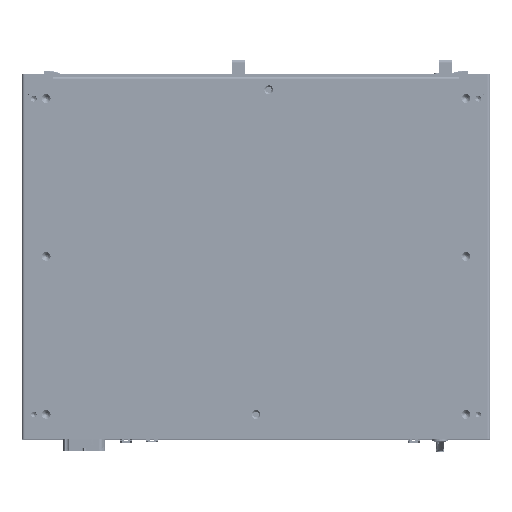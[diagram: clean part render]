
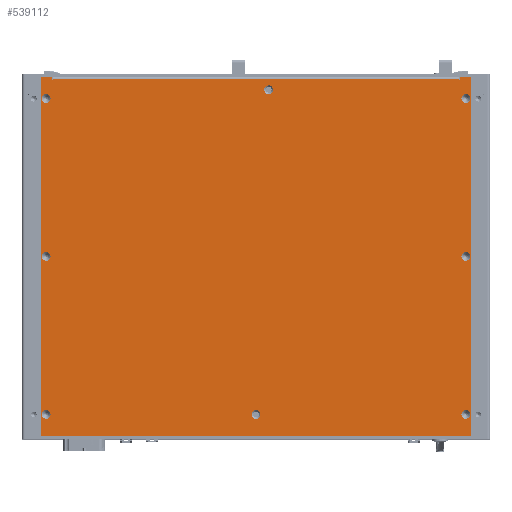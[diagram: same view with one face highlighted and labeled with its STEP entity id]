
A CAD part, top view. The second image highlights one B-rep face of the part: STEP entity #539112.
In plain terms, the highlighted planar face has unit normal (0, 0, 1).
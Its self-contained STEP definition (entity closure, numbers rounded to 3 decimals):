
#6070=FACE_BOUND('',#71957,.T.);
#6071=FACE_BOUND('',#71958,.T.);
#6072=FACE_BOUND('',#71959,.T.);
#6073=FACE_BOUND('',#71960,.T.);
#6074=FACE_BOUND('',#71961,.T.);
#6075=FACE_BOUND('',#71962,.T.);
#6076=FACE_BOUND('',#71963,.T.);
#6077=FACE_BOUND('',#71964,.T.);
#18801=PLANE('',#576316);
#42388=FACE_OUTER_BOUND('',#71956,.T.);
#71956=EDGE_LOOP('',(#431926,#431927,#431928,#431929,#431930,#431931,#431932,
#431933,#431934,#431935,#431936,#431937));
#71957=EDGE_LOOP('',(#431938));
#71958=EDGE_LOOP('',(#431939));
#71959=EDGE_LOOP('',(#431940));
#71960=EDGE_LOOP('',(#431941));
#71961=EDGE_LOOP('',(#431942));
#71962=EDGE_LOOP('',(#431943));
#71963=EDGE_LOOP('',(#431944));
#71964=EDGE_LOOP('',(#431945));
#92676=CIRCLE('',#576298,3.);
#92678=CIRCLE('',#576301,3.);
#92679=CIRCLE('',#576303,3.);
#92680=CIRCLE('',#576305,3.);
#92681=CIRCLE('',#576307,3.);
#92683=CIRCLE('',#576310,3.);
#92684=CIRCLE('',#576312,3.);
#92685=CIRCLE('',#576314,3.);
#92686=CIRCLE('',#576317,0.25);
#92687=CIRCLE('',#576318,0.25);
#137381=LINE('',#873149,#193372);
#137382=LINE('',#873151,#193373);
#137383=LINE('',#873155,#193374);
#137384=LINE('',#873157,#193375);
#137385=LINE('',#873159,#193376);
#137386=LINE('',#873161,#193377);
#137387=LINE('',#873163,#193378);
#137388=LINE('',#873165,#193379);
#137389=LINE('',#873167,#193380);
#137390=LINE('',#873170,#193381);
#193372=VECTOR('',#680979,1000.);
#193373=VECTOR('',#680980,1000.);
#193374=VECTOR('',#680983,1000.);
#193375=VECTOR('',#680984,1000.);
#193376=VECTOR('',#680985,1000.);
#193377=VECTOR('',#680986,1000.);
#193378=VECTOR('',#680987,1000.);
#193379=VECTOR('',#680988,1000.);
#193380=VECTOR('',#680989,1000.);
#193381=VECTOR('',#680992,1000.);
#244746=VERTEX_POINT('',#873102);
#244748=VERTEX_POINT('',#873108);
#244749=VERTEX_POINT('',#873112);
#244750=VERTEX_POINT('',#873116);
#244751=VERTEX_POINT('',#873120);
#244753=VERTEX_POINT('',#873126);
#244754=VERTEX_POINT('',#873130);
#244755=VERTEX_POINT('',#873134);
#244760=VERTEX_POINT('',#873147);
#244761=VERTEX_POINT('',#873148);
#244762=VERTEX_POINT('',#873150);
#244763=VERTEX_POINT('',#873152);
#244764=VERTEX_POINT('',#873154);
#244765=VERTEX_POINT('',#873156);
#244766=VERTEX_POINT('',#873158);
#244767=VERTEX_POINT('',#873160);
#244768=VERTEX_POINT('',#873162);
#244769=VERTEX_POINT('',#873164);
#244770=VERTEX_POINT('',#873166);
#244771=VERTEX_POINT('',#873168);
#310144=EDGE_CURVE('',#244746,#244746,#92676,.T.);
#310147=EDGE_CURVE('',#244748,#244748,#92678,.T.);
#310149=EDGE_CURVE('',#244749,#244749,#92679,.T.);
#310151=EDGE_CURVE('',#244750,#244750,#92680,.T.);
#310153=EDGE_CURVE('',#244751,#244751,#92681,.T.);
#310156=EDGE_CURVE('',#244753,#244753,#92683,.T.);
#310158=EDGE_CURVE('',#244754,#244754,#92684,.T.);
#310160=EDGE_CURVE('',#244755,#244755,#92685,.T.);
#310165=EDGE_CURVE('',#244760,#244761,#137381,.T.);
#310166=EDGE_CURVE('',#244761,#244762,#137382,.T.);
#310167=EDGE_CURVE('',#244762,#244763,#92686,.T.);
#310168=EDGE_CURVE('',#244763,#244764,#137383,.T.);
#310169=EDGE_CURVE('',#244765,#244764,#137384,.T.);
#310170=EDGE_CURVE('',#244766,#244765,#137385,.T.);
#310171=EDGE_CURVE('',#244767,#244766,#137386,.T.);
#310172=EDGE_CURVE('',#244768,#244767,#137387,.T.);
#310173=EDGE_CURVE('',#244769,#244768,#137388,.T.);
#310174=EDGE_CURVE('',#244770,#244769,#137389,.T.);
#310175=EDGE_CURVE('',#244771,#244770,#92687,.T.);
#310176=EDGE_CURVE('',#244760,#244771,#137390,.T.);
#431926=ORIENTED_EDGE('',*,*,#310165,.T.);
#431927=ORIENTED_EDGE('',*,*,#310166,.T.);
#431928=ORIENTED_EDGE('',*,*,#310167,.T.);
#431929=ORIENTED_EDGE('',*,*,#310168,.T.);
#431930=ORIENTED_EDGE('',*,*,#310169,.F.);
#431931=ORIENTED_EDGE('',*,*,#310170,.F.);
#431932=ORIENTED_EDGE('',*,*,#310171,.F.);
#431933=ORIENTED_EDGE('',*,*,#310172,.F.);
#431934=ORIENTED_EDGE('',*,*,#310173,.F.);
#431935=ORIENTED_EDGE('',*,*,#310174,.F.);
#431936=ORIENTED_EDGE('',*,*,#310175,.F.);
#431937=ORIENTED_EDGE('',*,*,#310176,.F.);
#431938=ORIENTED_EDGE('',*,*,#310144,.F.);
#431939=ORIENTED_EDGE('',*,*,#310147,.F.);
#431940=ORIENTED_EDGE('',*,*,#310149,.F.);
#431941=ORIENTED_EDGE('',*,*,#310151,.F.);
#431942=ORIENTED_EDGE('',*,*,#310156,.F.);
#431943=ORIENTED_EDGE('',*,*,#310158,.F.);
#431944=ORIENTED_EDGE('',*,*,#310160,.F.);
#431945=ORIENTED_EDGE('',*,*,#310153,.F.);
#539112=ADVANCED_FACE('',(#42388,#6070,#6071,#6072,#6073,#6074,#6075,#6076,
#6077),#18801,.F.);
#576298=AXIS2_PLACEMENT_3D('',#873104,#680930,#680931);
#576301=AXIS2_PLACEMENT_3D('',#873110,#680937,#680938);
#576303=AXIS2_PLACEMENT_3D('',#873114,#680942,#680943);
#576305=AXIS2_PLACEMENT_3D('',#873118,#680947,#680948);
#576307=AXIS2_PLACEMENT_3D('',#873122,#680952,#680953);
#576310=AXIS2_PLACEMENT_3D('',#873128,#680959,#680960);
#576312=AXIS2_PLACEMENT_3D('',#873132,#680964,#680965);
#576314=AXIS2_PLACEMENT_3D('',#873136,#680969,#680970);
#576316=AXIS2_PLACEMENT_3D('',#873146,#680977,#680978);
#576317=AXIS2_PLACEMENT_3D('',#873153,#680981,#680982);
#576318=AXIS2_PLACEMENT_3D('',#873169,#680990,#680991);
#680930=DIRECTION('center_axis',(0.,0.,
1.));
#680931=DIRECTION('ref_axis',(-1.,0.,0.));
#680937=DIRECTION('center_axis',(0.,0.,
1.));
#680938=DIRECTION('ref_axis',(-1.,0.,0.));
#680942=DIRECTION('center_axis',(0.,0.,
1.));
#680943=DIRECTION('ref_axis',(-1.,0.,0.));
#680947=DIRECTION('center_axis',(0.,0.,
1.));
#680948=DIRECTION('ref_axis',(-1.,0.,0.));
#680952=DIRECTION('center_axis',(0.,0.,
1.));
#680953=DIRECTION('ref_axis',(-1.,0.,0.));
#680959=DIRECTION('center_axis',(0.,0.,
1.));
#680960=DIRECTION('ref_axis',(-1.,0.,0.));
#680964=DIRECTION('center_axis',(0.,0.,
1.));
#680965=DIRECTION('ref_axis',(-1.,0.,0.));
#680969=DIRECTION('center_axis',(0.,0.,
1.));
#680970=DIRECTION('ref_axis',(-1.,0.,0.));
#680977=DIRECTION('center_axis',(0.,0.,
-1.));
#680978=DIRECTION('ref_axis',(1.,0.,0.));
#680979=DIRECTION('',(-1.,0.,0.));
#680980=DIRECTION('',(0.,-1.,0.));
#680981=DIRECTION('center_axis',(0.,0.,
-1.));
#680982=DIRECTION('ref_axis',(1.,0.,0.));
#680983=DIRECTION('',(0.,1.,0.));
#680984=DIRECTION('',(1.,0.,0.));
#680985=DIRECTION('',(0.,1.,0.));
#680986=DIRECTION('',(-1.,0.,0.));
#680987=DIRECTION('',(0.,-1.,0.));
#680988=DIRECTION('',(1.,0.,0.));
#680989=DIRECTION('',(0.,1.,0.));
#680990=DIRECTION('center_axis',(0.,0.,
1.));
#680991=DIRECTION('ref_axis',(-1.,0.,0.));
#680992=DIRECTION('',(0.,-1.,0.));
#873102=CARTESIAN_POINT('',(146.45,-108.,65.8));
#873104=CARTESIAN_POINT('Origin',(143.45,-108.,65.8));
#873108=CARTESIAN_POINT('',(3.,-108.,65.8));
#873110=CARTESIAN_POINT('Origin',(0.,-108.,65.8));
#873112=CARTESIAN_POINT('',(-140.45,-108.,65.8));
#873114=CARTESIAN_POINT('Origin',(-143.45,-108.,65.8));
#873116=CARTESIAN_POINT('',(-140.45,0.,65.8));
#873118=CARTESIAN_POINT('Origin',(-143.45,0.,
65.8));
#873120=CARTESIAN_POINT('',(-140.45,108.,65.8));
#873122=CARTESIAN_POINT('Origin',(-143.45,108.,65.8));
#873126=CARTESIAN_POINT('',(11.655,114.,65.8));
#873128=CARTESIAN_POINT('Origin',(8.655,114.,65.8));
#873130=CARTESIAN_POINT('',(146.45,108.,65.8));
#873132=CARTESIAN_POINT('Origin',(143.45,108.,65.8));
#873134=CARTESIAN_POINT('',(146.45,0.,65.8));
#873136=CARTESIAN_POINT('Origin',(143.45,0.,
65.8));
#873146=CARTESIAN_POINT('Origin',(0.,0.,
65.8));
#873147=CARTESIAN_POINT('',(138.95,121.3,65.8));
#873148=CARTESIAN_POINT('',(-138.95,121.3,65.8));
#873149=CARTESIAN_POINT('',(138.95,121.3,65.8));
#873150=CARTESIAN_POINT('',(-138.95,120.8,65.8));
#873151=CARTESIAN_POINT('',(-138.95,123.,65.8));
#873152=CARTESIAN_POINT('',(-139.45,120.8,65.8));
#873153=CARTESIAN_POINT('Origin',(-139.2,120.8,65.8));
#873154=CARTESIAN_POINT('',(-139.45,122.9,65.8));
#873155=CARTESIAN_POINT('',(-139.45,123.,65.8));
#873156=CARTESIAN_POINT('',(-146.85,122.9,65.8));
#873157=CARTESIAN_POINT('',(146.85,122.9,65.8));
#873158=CARTESIAN_POINT('',(-146.85,-122.9,65.8));
#873159=CARTESIAN_POINT('',(-146.85,-123.,65.8));
#873160=CARTESIAN_POINT('',(146.85,-122.9,65.8));
#873161=CARTESIAN_POINT('',(146.85,-122.9,65.8));
#873162=CARTESIAN_POINT('',(146.85,122.9,65.8));
#873163=CARTESIAN_POINT('',(146.85,-123.,65.8));
#873164=CARTESIAN_POINT('',(139.45,122.9,65.8));
#873165=CARTESIAN_POINT('',(146.85,122.9,65.8));
#873166=CARTESIAN_POINT('',(139.45,120.8,65.8));
#873167=CARTESIAN_POINT('',(139.45,123.,65.8));
#873168=CARTESIAN_POINT('',(138.95,120.8,65.8));
#873169=CARTESIAN_POINT('Origin',(139.2,120.8,65.8));
#873170=CARTESIAN_POINT('',(138.95,123.,65.8));
